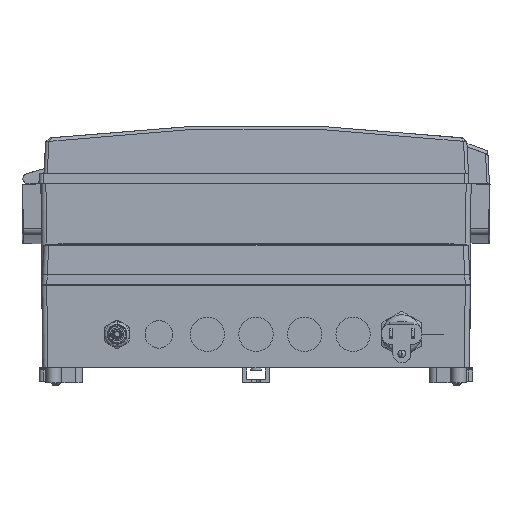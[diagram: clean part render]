
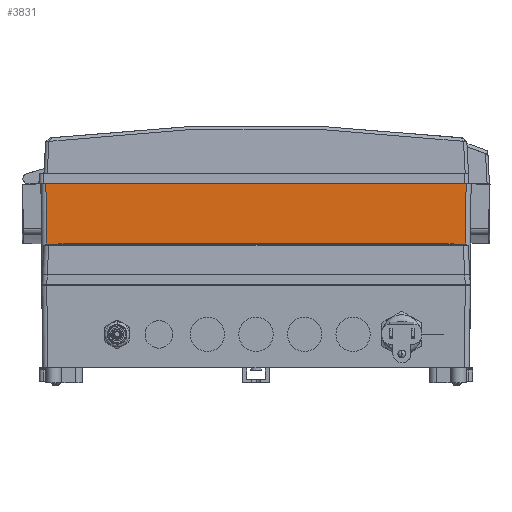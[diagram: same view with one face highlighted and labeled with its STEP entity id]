
A CAD part, front view. The second image highlights one B-rep face of the part: STEP entity #3831.
In plain terms, the highlighted planar face has unit normal (0, -1, 0.009).
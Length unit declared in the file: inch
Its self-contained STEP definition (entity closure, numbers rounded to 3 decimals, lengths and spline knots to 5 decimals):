
#438 = DIRECTION ( 'NONE',  ( 0.009, 0.009, 1. ) ) ;
#687 = EDGE_CURVE ( 'NONE', #10834, #6890, #11332, .T. ) ;
#1097 = EDGE_CURVE ( 'NONE', #32576, #14051, #3545, .T. ) ;
#2164 = LINE ( 'NONE', #30762, #31380 ) ;
#2711 = VERTEX_POINT ( 'NONE', #10507 ) ;
#3545 = LINE ( 'NONE', #27528, #15385 ) ;
#3831 = ADVANCED_FACE ( 'NONE', ( #24143 ), #27008, .T. ) ;
#4505 = LINE ( 'NONE', #23748, #29789 ) ;
#4880 = VERTEX_POINT ( 'NONE', #5557 ) ;
#5461 = EDGE_LOOP ( 'NONE', ( #11983, #27335, #14421, #11962, #10906, #5984, #11441, #7055 ) ) ;
#5557 = CARTESIAN_POINT ( 'NONE',  ( -4.79971, -3.11757, -1.96852 ) ) ;
#5984 = ORIENTED_EDGE ( 'NONE', *, *, #20071, .T. ) ;
#6890 = VERTEX_POINT ( 'NONE', #9630 ) ;
#6932 = CARTESIAN_POINT ( 'NONE',  ( -4.94093, -3.10039, 0. ) ) ;
#7055 = ORIENTED_EDGE ( 'NONE', *, *, #8984, .T. ) ;
#7220 = VERTEX_POINT ( 'NONE', #10844 ) ;
#7934 = CARTESIAN_POINT ( 'NONE',  ( 0., -3.12101, -2.3622 ) ) ;
#8954 = CARTESIAN_POINT ( 'NONE',  ( -4.80315, -3.12101, -2.3622 ) ) ;
#8984 = EDGE_CURVE ( 'NONE', #10834, #4880, #16550, .T. ) ;
#9461 = DIRECTION ( 'NONE',  ( 0., -0.009, -1. ) ) ;
#9478 = DIRECTION ( 'NONE',  ( 1., 0., 0. ) ) ;
#9541 = CARTESIAN_POINT ( 'NONE',  ( 4.94093, -3.10039, 0. ) ) ;
#9630 = CARTESIAN_POINT ( 'NONE',  ( -4.92032, -3.12101, -2.3622 ) ) ;
#10077 = LINE ( 'NONE', #24599, #23537 ) ;
#10507 = CARTESIAN_POINT ( 'NONE',  ( 4.80315, -3.12101, -2.3622 ) ) ;
#10711 = LINE ( 'NONE', #24967, #23378 ) ;
#10834 = VERTEX_POINT ( 'NONE', #8954 ) ;
#10844 = CARTESIAN_POINT ( 'NONE',  ( -4.94093, -3.10039, 0. ) ) ;
#10906 = ORIENTED_EDGE ( 'NONE', *, *, #25989, .F. ) ;
#11116 = EDGE_CURVE ( 'NONE', #32576, #2711, #2164, .T. ) ;
#11332 = LINE ( 'NONE', #7934, #23955 ) ;
#11441 = ORIENTED_EDGE ( 'NONE', *, *, #687, .F. ) ;
#11962 = ORIENTED_EDGE ( 'NONE', *, *, #1097, .T. ) ;
#11983 = ORIENTED_EDGE ( 'NONE', *, *, #31343, .T. ) ;
#13076 = CARTESIAN_POINT ( 'NONE',  ( -4.80315, -3.12101, -2.3622 ) ) ;
#14051 = VERTEX_POINT ( 'NONE', #9541 ) ;
#14421 = ORIENTED_EDGE ( 'NONE', *, *, #11116, .F. ) ;
#15385 = VECTOR ( 'NONE', #29782, 39.37008 ) ;
#15664 = DIRECTION ( 'NONE',  ( -1., 0., 0. ) ) ;
#16550 = LINE ( 'NONE', #13076, #22429 ) ;
#17195 = CARTESIAN_POINT ( 'NONE',  ( -4.93063, -3.11069, -1.18007 ) ) ;
#19705 = DIRECTION ( 'NONE',  ( 0.009, -0.009, -1. ) ) ;
#20071 = EDGE_CURVE ( 'NONE', #7220, #6890, #22639, .T. ) ;
#20647 = EDGE_CURVE ( 'NONE', #31520, #2711, #10711, .T. ) ;
#22429 = VECTOR ( 'NONE', #438, 39.37008 ) ;
#22639 = LINE ( 'NONE', #17195, #29358 ) ;
#23378 = VECTOR ( 'NONE', #27478, 39.37008 ) ;
#23537 = VECTOR ( 'NONE', #9478, 39.37008 ) ;
#23748 = CARTESIAN_POINT ( 'NONE',  ( 0., -3.11757, -1.96852 ) ) ;
#23955 = VECTOR ( 'NONE', #25379, 39.37008 ) ;
#24143 = FACE_OUTER_BOUND ( 'NONE', #5461, .T. ) ;
#24577 = DIRECTION ( 'NONE',  ( 0., -1., 0.009 ) ) ;
#24599 = CARTESIAN_POINT ( 'NONE',  ( 0., -3.10039, 0. ) ) ;
#24967 = CARTESIAN_POINT ( 'NONE',  ( 4.79971, -3.11757, -1.96852 ) ) ;
#25379 = DIRECTION ( 'NONE',  ( -1., 0., 0. ) ) ;
#25989 = EDGE_CURVE ( 'NONE', #7220, #14051, #10077, .T. ) ;
#26149 = DIRECTION ( 'NONE',  ( 1., 0., 0. ) ) ;
#27008 = PLANE ( 'NONE',  #30190 ) ;
#27105 = CARTESIAN_POINT ( 'NONE',  ( 4.79971, -3.11757, -1.96852 ) ) ;
#27335 = ORIENTED_EDGE ( 'NONE', *, *, #20647, .T. ) ;
#27478 = DIRECTION ( 'NONE',  ( 0.009, -0.009, -1. ) ) ;
#27528 = CARTESIAN_POINT ( 'NONE',  ( 4.93063, -3.11069, -1.18007 ) ) ;
#29358 = VECTOR ( 'NONE', #19705, 39.37008 ) ;
#29716 = CARTESIAN_POINT ( 'NONE',  ( 4.92032, -3.12101, -2.3622 ) ) ;
#29782 = DIRECTION ( 'NONE',  ( 0.009, 0.009, 1. ) ) ;
#29789 = VECTOR ( 'NONE', #26149, 39.37008 ) ;
#30190 = AXIS2_PLACEMENT_3D ( 'NONE', #6932, #24577, #9461 ) ;
#30762 = CARTESIAN_POINT ( 'NONE',  ( 0., -3.12101, -2.3622 ) ) ;
#31343 = EDGE_CURVE ( 'NONE', #4880, #31520, #4505, .T. ) ;
#31380 = VECTOR ( 'NONE', #15664, 39.37008 ) ;
#31520 = VERTEX_POINT ( 'NONE', #27105 ) ;
#32576 = VERTEX_POINT ( 'NONE', #29716 ) ;
